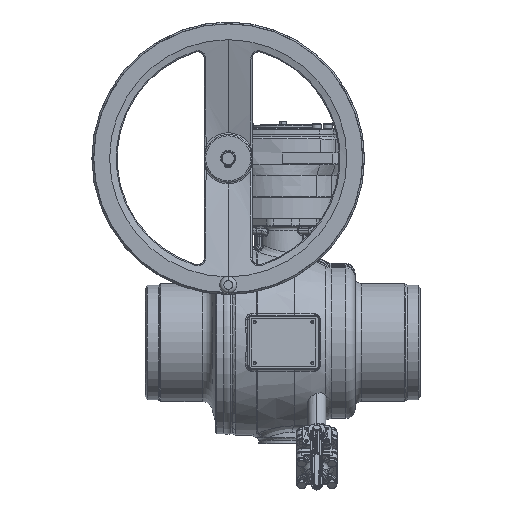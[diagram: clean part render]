
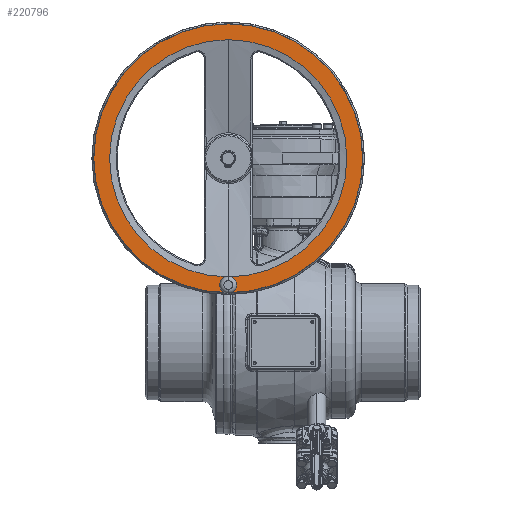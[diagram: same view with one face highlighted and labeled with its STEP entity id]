
A CAD part, top view. The second image highlights one B-rep face of the part: STEP entity #220796.
In plain terms, the highlighted planar face has unit normal (0, 0, 1) as drawn and (1, 0, 0) by its records, which use the part's own axes.
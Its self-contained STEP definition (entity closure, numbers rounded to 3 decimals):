
#218892=CARTESIAN_POINT('',(63.,0.,0.));
#218893=DIRECTION('',(-1.,0.,0.));
#218894=DIRECTION('',(0.,0.,1.));
#218895=AXIS2_PLACEMENT_3D('',#218892,#218893,#218894);
#218897=CARTESIAN_POINT('',(63.,0.,0.));
#218898=DIRECTION('',(1.,0.,0.));
#218899=DIRECTION('',(0.,0.,1.));
#218900=AXIS2_PLACEMENT_3D('',#218897,#218898,#218899);
#218902=CARTESIAN_POINT('',(63.,0.,-186.));
#218903=DIRECTION('',(1.,0.,0.));
#218904=DIRECTION('',(0.,0.,-1.));
#218905=AXIS2_PLACEMENT_3D('',#218902,#218903,#218904);
#218907=CARTESIAN_POINT('',(63.,0.,-186.));
#218908=DIRECTION('',(1.,0.,0.));
#218909=DIRECTION('',(0.,0.,1.));
#218910=AXIS2_PLACEMENT_3D('',#218907,#218908,#218909);
#218912=CARTESIAN_POINT('',(63.,0.,0.));
#218913=DIRECTION('',(1.,0.,0.));
#218914=DIRECTION('',(0.,0.,1.));
#218915=AXIS2_PLACEMENT_3D('',#218912,#218913,#218914);
#218917=CARTESIAN_POINT('',(63.,0.,0.));
#218918=DIRECTION('',(1.,0.,0.));
#218919=DIRECTION('',(0.,0.,-1.));
#218920=AXIS2_PLACEMENT_3D('',#218917,#218918,#218919);
#220476=CARTESIAN_POINT('',(63.,0.,174.));
#220477=CARTESIAN_POINT('',(63.,0.,-174.));
#220478=VERTEX_POINT('',#220476);
#220479=VERTEX_POINT('',#220477);
#220502=CARTESIAN_POINT('',(63.,0.,-197.));
#220503=CARTESIAN_POINT('',(63.,0.,-175.));
#220504=VERTEX_POINT('',#220502);
#220505=VERTEX_POINT('',#220503);
#220691=CARTESIAN_POINT('',(63.,0.,197.293));
#220692=CARTESIAN_POINT('',(63.,0.,-197.293));
#220693=VERTEX_POINT('',#220691);
#220694=VERTEX_POINT('',#220692);
#220775=CARTESIAN_POINT('',(63.,0.,0.));
#220776=DIRECTION('',(1.,0.,0.));
#220777=DIRECTION('',(0.,0.,-1.));
#220778=AXIS2_PLACEMENT_3D('',#220775,#220776,#220777);
#220779=PLANE('',#220778);
#220781=ORIENTED_EDGE('',*,*,#220780,.F.);
#220783=ORIENTED_EDGE('',*,*,#220782,.F.);
#220784=EDGE_LOOP('',(#220781,#220783));
#220785=FACE_OUTER_BOUND('',#220784,.F.);
#220787=ORIENTED_EDGE('',*,*,#220786,.T.);
#220789=ORIENTED_EDGE('',*,*,#220788,.T.);
#220790=EDGE_LOOP('',(#220787,#220789));
#220791=FACE_BOUND('',#220790,.F.);
#220792=ORIENTED_EDGE('',*,*,#220757,.F.);
#220793=ORIENTED_EDGE('',*,*,#220724,.T.);
#220794=EDGE_LOOP('',(#220792,#220793));
#220795=FACE_BOUND('',#220794,.F.);
#220796=ADVANCED_FACE('',(#220785,#220791,#220795),#220779,.T.);
#218896=CIRCLE('',#218895,174.);
#218901=CIRCLE('',#218900,174.);
#218906=CIRCLE('',#218905,11.);
#218911=CIRCLE('',#218910,11.);
#218916=CIRCLE('',#218915,197.293);
#218921=CIRCLE('',#218920,197.293);
#220724=EDGE_CURVE('',#220478,#220479,#218901,.T.);
#220757=EDGE_CURVE('',#220478,#220479,#218896,.T.);
#220780=EDGE_CURVE('',#220693,#220694,#218916,.T.);
#220782=EDGE_CURVE('',#220694,#220693,#218921,.T.);
#220786=EDGE_CURVE('',#220504,#220505,#218906,.T.);
#220788=EDGE_CURVE('',#220505,#220504,#218911,.T.);
